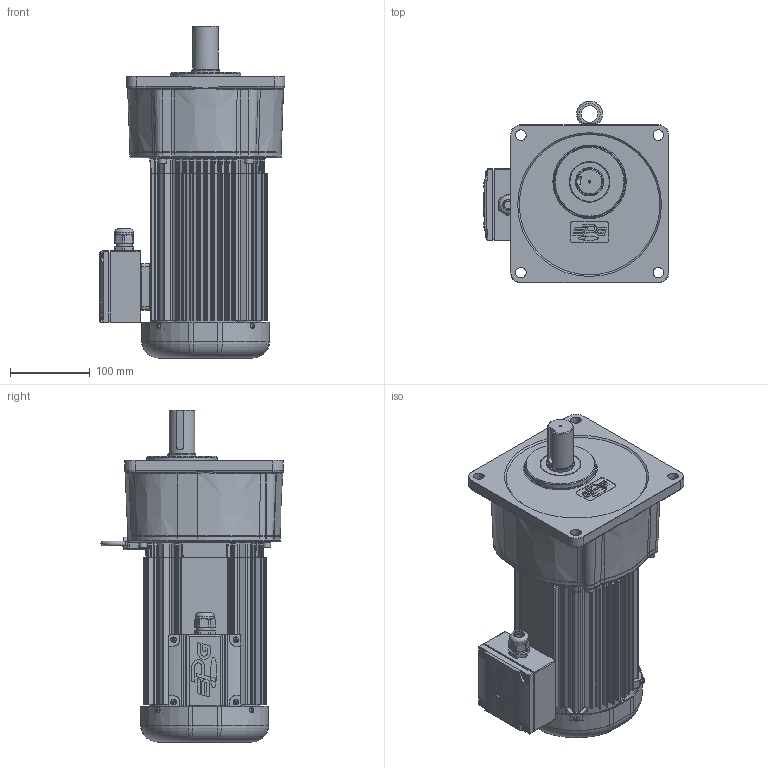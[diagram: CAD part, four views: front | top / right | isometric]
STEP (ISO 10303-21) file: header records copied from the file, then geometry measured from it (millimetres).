
FILE_DESCRIPTION(/* description */ (''),/* implementation_level */ '2;1');
FILE_NAME(/* name */ 'Z:\동력 3D 파일\PAK32_0.75kW_3D.stp',/* time_stamp */ '2021-11-09T09:00:14+09:00',/* author */ ('jaebok'),/* organization */ (''),/* preprocessor_version */ 'ST-DEVELOPER v18.1',/* originating_system */ 'Autodesk Inventor 2022',/* authorisation */ '');
FILE_SCHEMA (('AUTOMOTIVE_DESIGN { 1 0 10303 214 3 1 1 }'));
Products named in the file (1): 부품15
Bounding box: 232 x 227.78 x 415.5 mm (x, y, z)
Volume: 2465390.6 mm3; surface area: 776427.3 mm2
Topology: 1 solids, 28 shells, 3590 faces, 8980 edges, 5288 vertices
Faces by surface type: plane 1022, cylinder 953, bspline 939, torus 359, cone 183, sphere 134
Full cylindrical faces by diameter (mm): 2 x2, 3.25 x1, 3.5 x4, 3.6 x4, 4 x22, 4.917 x4, 5 x20, 6 x8, 6.647 x1, 6.8 x4, 7 x13, 8 x5, 9.5 x4, 10 x5, 12.5 x1, 15 x1, 18 x1, 20 x2, 20.6 x1, 21 x2, 21.8 x1, 22 x1, 23.6 x1, 25 x1, 28 x1, 30 x2, 31.8 x2, 32 x2, 34.8 x1, 35 x6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
Entity records: 142888 total; most frequent: CARTESIAN_POINT 59692, ORIENTED_EDGE 17442, DIRECTION 15572, EDGE_CURVE 8721, AXIS2_PLACEMENT_3D 6374, VERTEX_POINT 5288, EDGE_LOOP 3804, CIRCLE 3616
